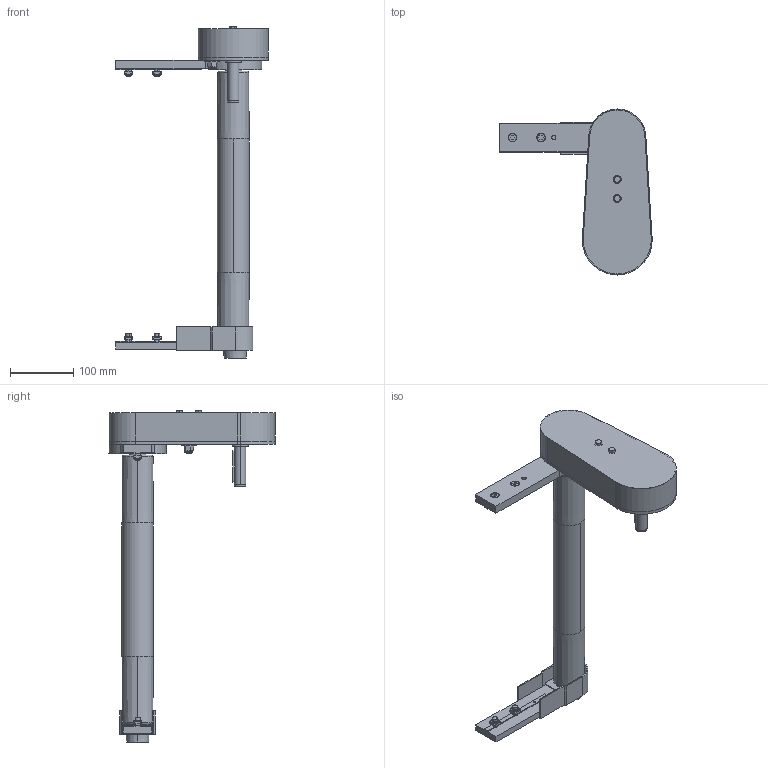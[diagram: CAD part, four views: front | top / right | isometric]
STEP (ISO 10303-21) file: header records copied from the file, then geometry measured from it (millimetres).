
FILE_DESCRIPTION (( 'STEP AP203' ), '1' );
FILE_NAME ('084.050.KTB.44.400.STEP', '2019-07-29T13:40:18', ( '' ), ( '' ), 'SwSTEP 2.0', 'SolidWorks 2018', '' );
FILE_SCHEMA (( 'CONFIG_CONTROL_DESIGN' ));
Length unit declared in the file: millimetre
Products named in the file (29): 084.813.001; VITI TE UNI 5739_M8x20 UNI 5739; 084.802.017_084.802.017; 084.810.008; CHIAVETTE_A 6x6x50 UNI 6604-69; 084.301.000 VITI ALUSIC_084.301.003; 084.807.001_084.807.001; 084.810.006; 084.809.001; RONDELLE FASCIA LARGA UNI 6593_8.4x24 UNI 6593; 084.302.000 DADI ALUSIC 13x13-1_084.302.004; 084.807.002_084.807.002; 084.811.004; 084.809.003; CHIAVETTE_A 8x7x25 UNI 6604-69; 084.821.003; VITI TE UNI 5739_M6x50 UNI 5739; 084.802.023_084.802.023; DADI ESAGONALI AUTOBLOCCANTI UNI 7473_M8 UNI 7473; 084.821.002; 084.802.034_084.802.034; 084.810.001; 084.815.117_Default<A macchina>; Circlip DIN 471 - 8 x 0.8_Circlip DIN 471 - 8 x 0.8; 084.050.KTB.44.400; 084.813.004; RONDELLE UNI 6592_8.4x17 UNI 6592; VITI TSEI UNI 5933_M4x12 UNI 5933; CUSCINETTI A SFERE_608-2RS
Assembly tree (47 placements, depth 3):
  084.050.KTB.44.400
    084.802.023_084.802.023
    084.813.004
    084.810.006
      084.810.008
      CUSCINETTI A SFERE_608-2RS  x3
      Circlip DIN 471 - 8 x 0.8_Circlip DIN 471 - 8 x 0.8
      RONDELLE FASCIA LARGA UNI 6593_8.4x24 UNI 6593
      DADI ESAGONALI AUTOBLOCCANTI UNI 7473_M8 UNI 7473
    084.809.003
    084.809.001
    084.821.002  x2
    084.821.003
    084.802.017_084.802.017
    084.802.034_084.802.034
    084.807.001_084.807.001
    084.807.002_084.807.002
    084.813.001
    084.810.001  x2
    084.811.004
    084.815.117_Default<A macchina>
    CHIAVETTE_A 8x7x25 UNI 6604-69  x2
    CHIAVETTE_A 6x6x50 UNI 6604-69
    VITI TSEI UNI 5933_M4x12 UNI 5933  x2
    084.302.000 DADI ALUSIC 13x13-1_084.302.004  x4
    084.301.000 VITI ALUSIC_084.301.003  x4
    VITI TE UNI 5739_M6x50 UNI 5739  x2
    RONDELLE UNI 6592_8.4x17 UNI 6592  x4
    VITI TE UNI 5739_M8x20 UNI 5739  x4
Bounding box: 240 x 261.5 x 523 mm (x, y, z)
Volume: 1009757.9 mm3; surface area: 590643.5 mm2
Topology: 51 solids, 52 shells, 1713 faces, 4429 edges, 2877 vertices
Faces by surface type: plane 756, cylinder 626, cone 182, torus 116, bspline 24, sphere 9
Entity records: 41678 total; most frequent: CARTESIAN_POINT 7908, DIRECTION 6537, ORIENTED_EDGE 6184, EDGE_CURVE 3092, AXIS2_PLACEMENT_3D 2379, VERTEX_POINT 2016, VECTOR 1779, LINE 1779
